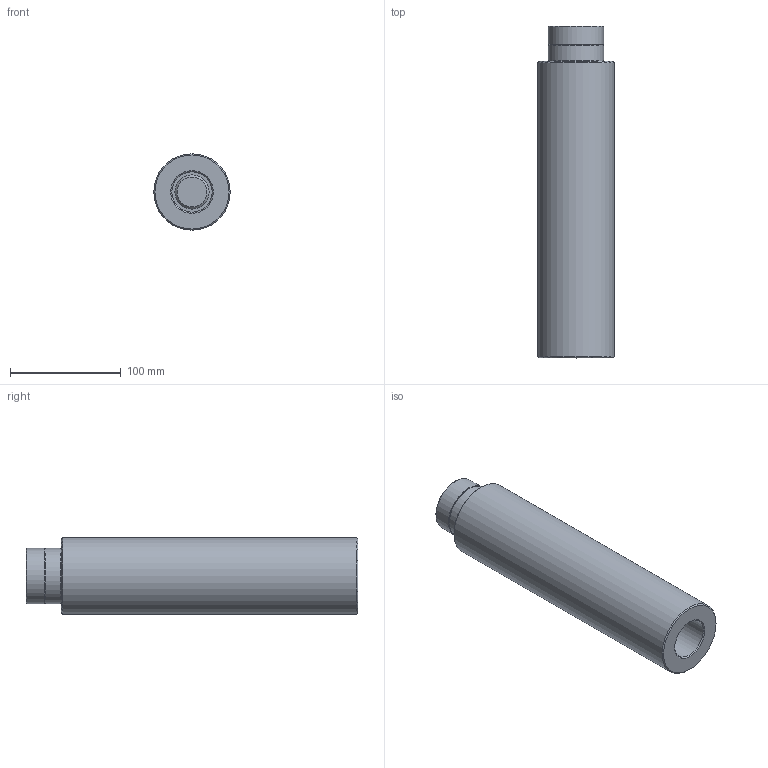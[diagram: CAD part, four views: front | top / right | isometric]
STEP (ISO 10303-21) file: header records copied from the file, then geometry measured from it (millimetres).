
FILE_DESCRIPTION(/* description */ (''),/* implementation_level */ '2;1');
FILE_NAME(/* name */ '',/* time_stamp */ '2025-05-21T14:11:31+03:00',/* author */ ('User'),/* organization */ (''),/* preprocessor_version */ 'ST-DEVELOPER v19.2',/* originating_system */ 'Autodesk Inventor 2024',/* authorisation */ '');
FILE_SCHEMA (('AUTOMOTIVE_DESIGN { 1 0 10303 214 3 1 1 }'));
Length unit declared in the file: millimetre
Products named in the file (3): Домкрат винтовой 
S-300; Основание; Домкрат винтовой 
S-300_1
Assembly tree (2 placements, depth 2):
  Домкрат винтовой 
S-300
    Основание
    Домкрат винтовой 
S-300_1
Bounding box: 69 x 300 x 69 mm (x, y, z)
Volume: 928320.9 mm3; surface area: 123865.9 mm2
Topology: 3 solids, 3 shells, 24 faces, 48 edges, 32 vertices
Faces by surface type: cone 9, plane 8, cylinder 7
Full cylindrical faces by diameter (mm): 30 x2, 31 x1, 36.5 x1, 50 x2, 69 x1
Entity records: 758 total; most frequent: DIRECTION 138, CARTESIAN_POINT 109, ORIENTED_EDGE 96, AXIS2_PLACEMENT_3D 61, EDGE_CURVE 48, CIRCLE 32, VERTEX_POINT 32, EDGE_LOOP 30
